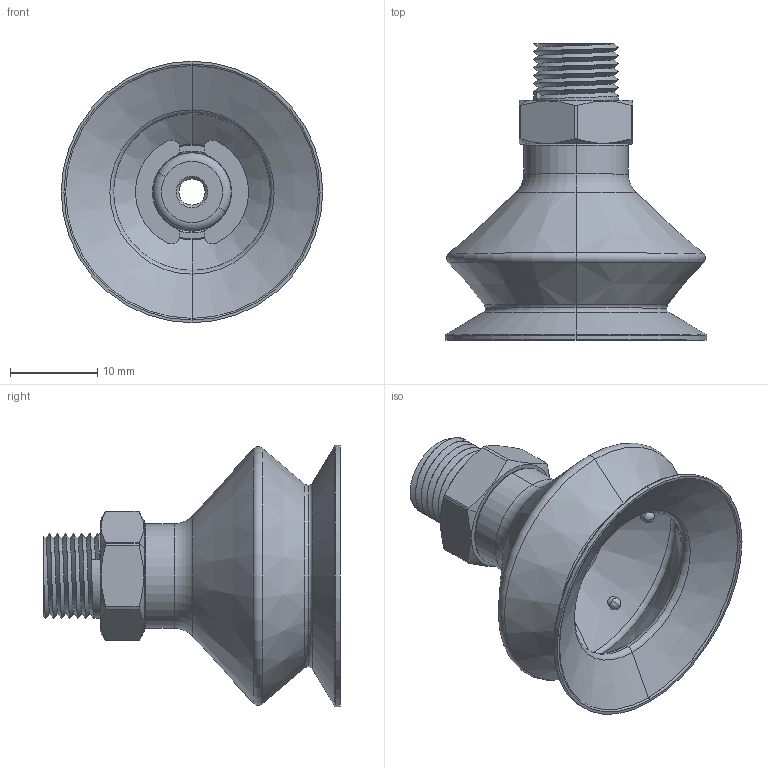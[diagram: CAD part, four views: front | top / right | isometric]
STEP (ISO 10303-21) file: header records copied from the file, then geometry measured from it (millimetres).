
FILE_DESCRIPTION (( 'STEP AP203' ), '1' );
FILE_NAME ('8SB 30--M18.STEP', '2018-07-09T07:42:30', ( '' ), ( '' ), 'SwSTEP 2.0', 'SolidWorks 2016', '' );
FILE_SCHEMA (( 'CONFIG_CONTROL_DESIGN' ));
Length unit declared in the file: millimetre
Products named in the file (1): 8SB 30--M18
Bounding box: 29.97 x 33.98 x 29.97 mm (x, y, z)
Volume: 3945.8 mm3; surface area: 5197 mm2
Topology: 2 solids, 2 shells, 143 faces, 342 edges, 213 vertices
Faces by surface type: cylinder 57, torus 33, cone 20, plane 19, sphere 12, bspline 2
Entity records: 7049 total; most frequent: CARTESIAN_POINT 3688, DIRECTION 720, ORIENTED_EDGE 684, EDGE_CURVE 342, AXIS2_PLACEMENT_3D 325, VERTEX_POINT 213, CIRCLE 183, EDGE_LOOP 157
